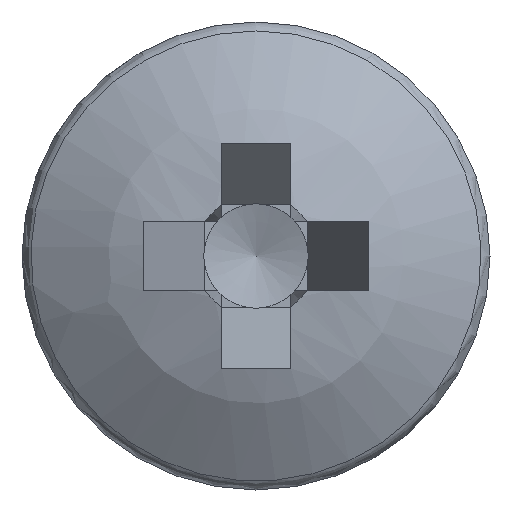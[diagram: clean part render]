
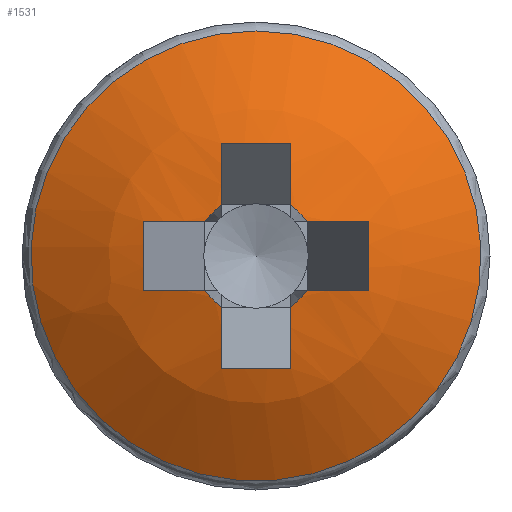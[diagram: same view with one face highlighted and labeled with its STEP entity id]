
A CAD part, left-side view. The second image highlights one B-rep face of the part: STEP entity #1531.
In plain terms, the highlighted spherical face has radius 4 mm.
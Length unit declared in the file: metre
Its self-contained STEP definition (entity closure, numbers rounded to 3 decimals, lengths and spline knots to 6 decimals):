
#211=ORIENTED_EDGE('',*,*,#565,.T.);
#212=ORIENTED_EDGE('',*,*,#566,.F.);
#213=ORIENTED_EDGE('',*,*,#567,.F.);
#214=ORIENTED_EDGE('',*,*,#568,.T.);
#215=ORIENTED_EDGE('',*,*,#569,.F.);
#216=ORIENTED_EDGE('',*,*,#570,.F.);
#217=ORIENTED_EDGE('',*,*,#571,.F.);
#218=ORIENTED_EDGE('',*,*,#572,.T.);
#219=ORIENTED_EDGE('',*,*,#573,.F.);
#220=ORIENTED_EDGE('',*,*,#574,.F.);
#221=ORIENTED_EDGE('',*,*,#575,.F.);
#222=ORIENTED_EDGE('',*,*,#576,.T.);
#223=ORIENTED_EDGE('',*,*,#577,.F.);
#224=ORIENTED_EDGE('',*,*,#578,.F.);
#225=ORIENTED_EDGE('',*,*,#579,.F.);
#226=ORIENTED_EDGE('',*,*,#580,.T.);
#227=ORIENTED_EDGE('',*,*,#581,.F.);
#565=EDGE_CURVE('',#742,#742,#892,.T.);
#566=EDGE_CURVE('',#743,#744,#893,.F.);
#567=EDGE_CURVE('',#745,#743,#894,.T.);
#568=EDGE_CURVE('',#745,#746,#895,.T.);
#569=EDGE_CURVE('',#747,#746,#896,.T.);
#570=EDGE_CURVE('',#748,#747,#897,.F.);
#571=EDGE_CURVE('',#749,#748,#898,.T.);
#572=EDGE_CURVE('',#749,#750,#899,.T.);
#573=EDGE_CURVE('',#751,#750,#900,.T.);
#574=EDGE_CURVE('',#752,#751,#901,.F.);
#575=EDGE_CURVE('',#753,#752,#902,.T.);
#576=EDGE_CURVE('',#753,#754,#903,.T.);
#577=EDGE_CURVE('',#755,#754,#904,.T.);
#578=EDGE_CURVE('',#756,#755,#905,.F.);
#579=EDGE_CURVE('',#757,#756,#906,.T.);
#580=EDGE_CURVE('',#757,#758,#907,.T.);
#581=EDGE_CURVE('',#744,#758,#908,.T.);
#742=VERTEX_POINT('',#2564);
#743=VERTEX_POINT('',#2566);
#744=VERTEX_POINT('',#2567);
#745=VERTEX_POINT('',#2569);
#746=VERTEX_POINT('',#2571);
#747=VERTEX_POINT('',#2573);
#748=VERTEX_POINT('',#2575);
#749=VERTEX_POINT('',#2577);
#750=VERTEX_POINT('',#2579);
#751=VERTEX_POINT('',#2581);
#752=VERTEX_POINT('',#2583);
#753=VERTEX_POINT('',#2585);
#754=VERTEX_POINT('',#2587);
#755=VERTEX_POINT('',#2589);
#756=VERTEX_POINT('',#2591);
#757=VERTEX_POINT('',#2593);
#758=VERTEX_POINT('',#2595);
#892=CIRCLE('',#1684,0.002404);
#893=CIRCLE('',#1685,0.000657);
#894=CIRCLE('',#1686,0.003983);
#895=CIRCLE('',#1687,0.003951);
#896=CIRCLE('',#1688,0.003983);
#897=CIRCLE('',#1689,0.000657);
#898=CIRCLE('',#1690,0.003983);
#899=CIRCLE('',#1691,0.003951);
#900=CIRCLE('',#1692,0.003983);
#901=CIRCLE('',#1693,0.000657);
#902=CIRCLE('',#1694,0.003983);
#903=CIRCLE('',#1695,0.003951);
#904=CIRCLE('',#1696,0.003983);
#905=CIRCLE('',#1697,0.000657);
#906=CIRCLE('',#1698,0.003983);
#907=CIRCLE('',#1699,0.003951);
#908=CIRCLE('',#1700,0.003983);
#1033=EDGE_LOOP('',(#211));
#1034=EDGE_LOOP('',(#212,#213,#214,#215,#216,#217,#218,#219,#220,#221,#222,
#223,#224,#225,#226,#227));
#1281=FACE_BOUND('',#1033,.T.);
#1282=FACE_BOUND('',#1034,.T.);
#1530=SPHERICAL_SURFACE('',#1683,0.004);
#1531=ADVANCED_FACE('',(#1281,#1282),#1530,.T.);
#1683=AXIS2_PLACEMENT_3D('',#2562,#1969,#1970);
#1684=AXIS2_PLACEMENT_3D('',#2563,#1971,#1972);
#1685=AXIS2_PLACEMENT_3D('',#2565,#1973,#1974);
#1686=AXIS2_PLACEMENT_3D('',#2568,#1975,#1976);
#1687=AXIS2_PLACEMENT_3D('',#2570,#1977,#1978);
#1688=AXIS2_PLACEMENT_3D('',#2572,#1979,#1980);
#1689=AXIS2_PLACEMENT_3D('',#2574,#1981,#1982);
#1690=AXIS2_PLACEMENT_3D('',#2576,#1983,#1984);
#1691=AXIS2_PLACEMENT_3D('',#2578,#1985,#1986);
#1692=AXIS2_PLACEMENT_3D('',#2580,#1987,#1988);
#1693=AXIS2_PLACEMENT_3D('',#2582,#1989,#1990);
#1694=AXIS2_PLACEMENT_3D('',#2584,#1991,#1992);
#1695=AXIS2_PLACEMENT_3D('',#2586,#1993,#1994);
#1696=AXIS2_PLACEMENT_3D('',#2588,#1995,#1996);
#1697=AXIS2_PLACEMENT_3D('',#2590,#1997,#1998);
#1698=AXIS2_PLACEMENT_3D('',#2592,#1999,#2000);
#1699=AXIS2_PLACEMENT_3D('',#2594,#2001,#2002);
#1700=AXIS2_PLACEMENT_3D('',#2596,#2003,#2004);
#1969=DIRECTION('',(-1.,0.,0.));
#1970=DIRECTION('',(0.,1.,0.));
#1971=DIRECTION('',(-1.,0.,0.));
#1972=DIRECTION('',(0.,0.,1.));
#1973=DIRECTION('',(1.,0.,0.));
#1974=DIRECTION('',(0.,0.,-1.));
#1975=DIRECTION('',(0.,1.,0.));
#1976=DIRECTION('',(0.,0.,1.));
#1977=DIRECTION('',(0.446,0.,-0.895));
#1978=DIRECTION('',(-0.895,0.,-0.446));
#1979=DIRECTION('',(0.,-1.,0.));
#1980=DIRECTION('',(0.,0.,-1.));
#1981=DIRECTION('',(1.,0.,0.));
#1982=DIRECTION('',(0.,0.,-1.));
#1983=DIRECTION('',(0.,0.,1.));
#1984=DIRECTION('',(1.,0.,0.));
#1985=DIRECTION('',(0.446,0.895,0.));
#1986=DIRECTION('',(-0.895,0.446,0.));
#1987=DIRECTION('',(0.,0.,-1.));
#1988=DIRECTION('',(0.,1.,0.));
#1989=DIRECTION('',(1.,0.,0.));
#1990=DIRECTION('',(0.,0.,-1.));
#1991=DIRECTION('',(0.,-1.,0.));
#1992=DIRECTION('',(0.,0.,-1.));
#1993=DIRECTION('',(0.446,0.,0.895));
#1994=DIRECTION('',(0.895,0.,-0.446));
#1995=DIRECTION('',(0.,1.,0.));
#1996=DIRECTION('',(0.,0.,1.));
#1997=DIRECTION('',(1.,0.,0.));
#1998=DIRECTION('',(0.,0.,-1.));
#1999=DIRECTION('',(0.,0.,-1.));
#2000=DIRECTION('',(0.,1.,0.));
#2001=DIRECTION('',(0.446,-0.895,0.));
#2002=DIRECTION('',(0.895,0.446,0.));
#2003=DIRECTION('',(0.,0.,1.));
#2004=DIRECTION('',(1.,0.,0.));
#2562=CARTESIAN_POINT('',(0.004,0.,0.));
#2563=CARTESIAN_POINT('',(0.000803,0.,0.));
#2564=CARTESIAN_POINT('',(0.000803,0.,0.002404));
#2565=CARTESIAN_POINT('',(0.000054,0.,0.));
#2566=CARTESIAN_POINT('',(0.000054,-0.00037,-0.000543));
#2567=CARTESIAN_POINT('',(0.000054,-0.000543,-0.00037));
#2568=CARTESIAN_POINT('',(0.004,-0.00037,0.));
#2569=CARTESIAN_POINT('',(0.000202,-0.00037,-0.001199));
#2570=CARTESIAN_POINT('',(0.003723,0.,0.000556));
#2571=CARTESIAN_POINT('',(0.000202,0.00037,-0.001199));
#2572=CARTESIAN_POINT('',(0.004,0.00037,0.));
#2573=CARTESIAN_POINT('',(0.000054,0.00037,-0.000543));
#2574=CARTESIAN_POINT('',(0.000054,0.,0.));
#2575=CARTESIAN_POINT('',(0.000054,0.000543,-0.00037));
#2576=CARTESIAN_POINT('',(0.004,0.,-0.00037));
#2577=CARTESIAN_POINT('',(0.000202,0.001199,-0.00037));
#2578=CARTESIAN_POINT('',(0.003723,-0.000556,0.));
#2579=CARTESIAN_POINT('',(0.000202,0.001199,0.00037));
#2580=CARTESIAN_POINT('',(0.004,0.,0.00037));
#2581=CARTESIAN_POINT('',(0.000054,0.000543,0.00037));
#2582=CARTESIAN_POINT('',(0.000054,0.,0.));
#2583=CARTESIAN_POINT('',(0.000054,0.00037,0.000543));
#2584=CARTESIAN_POINT('',(0.004,0.00037,0.));
#2585=CARTESIAN_POINT('',(0.000202,0.00037,0.001199));
#2586=CARTESIAN_POINT('',(0.003723,0.,-0.000556));
#2587=CARTESIAN_POINT('',(0.000202,-0.00037,0.001199));
#2588=CARTESIAN_POINT('',(0.004,-0.00037,0.));
#2589=CARTESIAN_POINT('',(0.000054,-0.00037,0.000543));
#2590=CARTESIAN_POINT('',(0.000054,0.,0.));
#2591=CARTESIAN_POINT('',(0.000054,-0.000543,0.00037));
#2592=CARTESIAN_POINT('',(0.004,0.,0.00037));
#2593=CARTESIAN_POINT('',(0.000202,-0.001199,0.00037));
#2594=CARTESIAN_POINT('',(0.003723,0.000556,0.));
#2595=CARTESIAN_POINT('',(0.000202,-0.001199,-0.00037));
#2596=CARTESIAN_POINT('',(0.004,0.,-0.00037));
